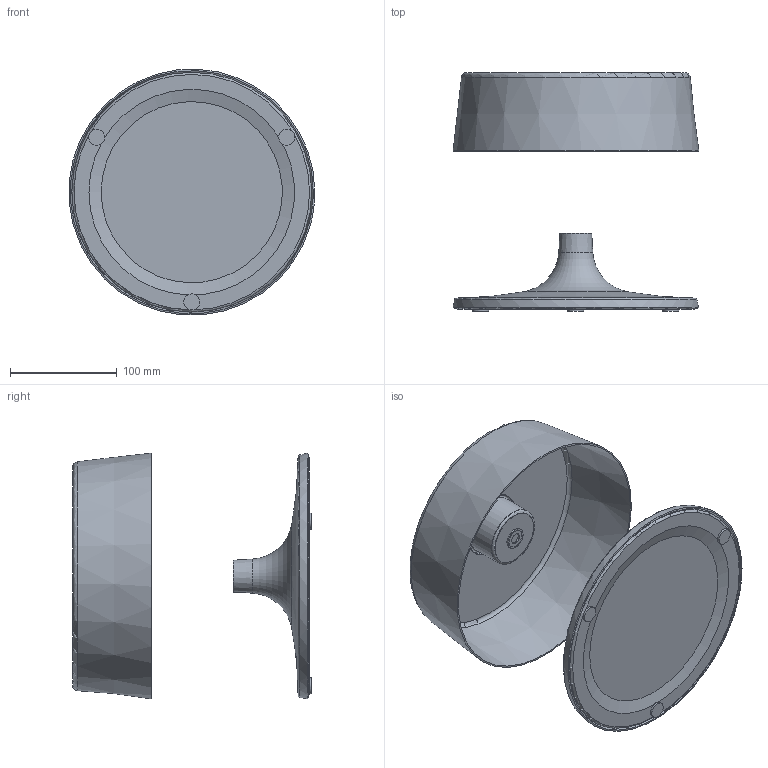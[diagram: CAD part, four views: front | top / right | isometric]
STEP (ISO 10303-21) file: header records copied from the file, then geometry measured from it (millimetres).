
FILE_DESCRIPTION(/* description */ (''),/* implementation_level */ '2;1');
FILE_NAME(/* name */ 'C:\Users\STEFANO\Desktop\3D SEM\0308-01 - CHINA TAVOLO SMALL F.E\Assieme1.stp',/* time_stamp */ '2019-09-20T15:23:50+02:00',/* author */ ('STEFANO'),/* organization */ (''),/* preprocessor_version */ 'ST-DEVELOPER v17',/* originating_system */ 'Autodesk Inventor 2019',/* authorisation */ '');
FILE_SCHEMA (('AUTOMOTIVE_DESIGN { 1 0 10303 214 3 1 1 }'));
Length unit declared in the file: millimetre
Products named in the file (10): Assieme1; Parte1; Parte2; Parte3; Parte4; Parte5; Parte6; Parte7; Parte8; Parte9
Assembly tree (9 placements, depth 2):
  Assieme1
    Parte1
    Parte2
    Parte3
    Parte4
    Parte5
    Parte6
    Parte7
    Parte8
    Parte9
Bounding box: 230.58 x 223.89 x 230.45 mm (x, y, z)
Volume: 481171.1 mm3; surface area: 394315.9 mm2
Topology: 9 solids, 9 shells, 53 faces, 140 edges, 107 vertices
Faces by surface type: plane 20, torus 11, cone 11, cylinder 9, bspline 2
Full cylindrical faces by diameter (mm): 10 x1, 15 x3, 20 x1, 22.5 x1, 55 x1, 56 x1, 225 x1
Entity records: 2207 total; most frequent: DIRECTION 400, CARTESIAN_POINT 371, ORIENTED_EDGE 280, AXIS2_PLACEMENT_3D 190, EDGE_CURVE 140, CIRCLE 120, VERTEX_POINT 107, EDGE_LOOP 61
